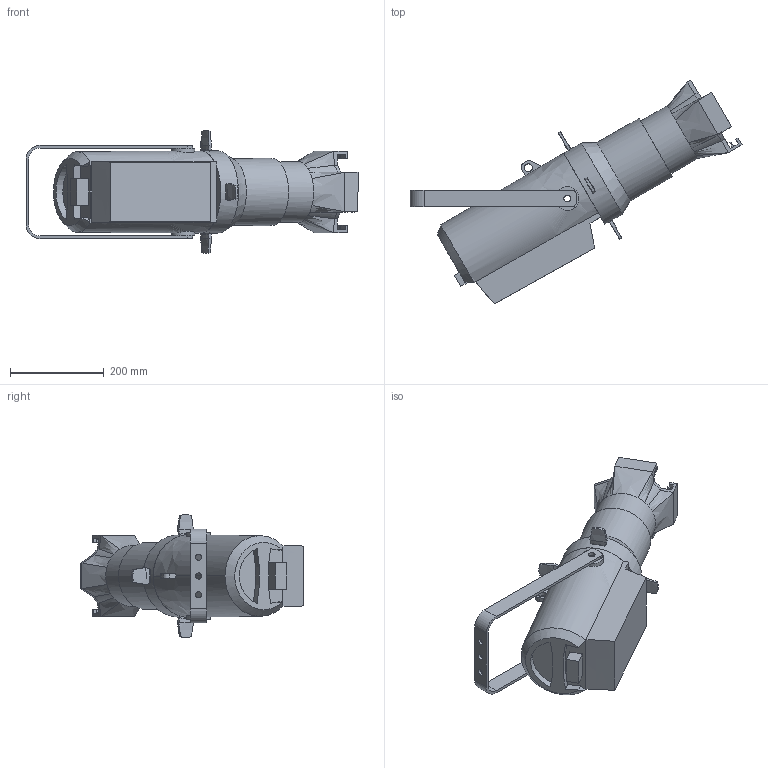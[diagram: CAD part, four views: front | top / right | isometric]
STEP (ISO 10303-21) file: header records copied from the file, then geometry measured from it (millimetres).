
FILE_DESCRIPTION(/* description */ (''),/* implementation_level */ '2;1');
FILE_NAME(/* name */ 'D:/dgooch/Documents/CADENG/PRO/Ovation E-260CW/30/3D/OVATIONE260CW_30.step',/* time_stamp */ '2020-03-09T12:12:57-04:00',/* author */ (''),/* organization */ (''),/* preprocessor_version */ 'ST-DEVELOPER v18',/* originating_system */ 'Autodesk Translation Framework v8.12.0.6',/* authorisation */ '');
FILE_SCHEMA (('AUTOMOTIVE_DESIGN { 1 0 10303 214 3 1 1 }'));
Length unit declared in the file: millimetre
Products named in the file (3): OVATIONE260CW (v4~recovered); Bracket; Main
Assembly tree (2 placements, depth 2):
  OVATIONE260CW (v4~recovered)
    Bracket
    Main
Bounding box: 707.57 x 477.02 x 262.15 mm (x, y, z)
Volume: 14324116.5 mm3; surface area: 541291.2 mm2
Topology: 2 solids, 2 shells, 202 faces, 537 edges, 353 vertices
Faces by surface type: plane 118, cylinder 32, bspline 28, cone 24
Full cylindrical faces by diameter (mm): 13 x3, 14.5 x3, 17 x1, 50 x2, 129.499 x1, 143 x1, 175 x1
Entity records: 28780 total; most frequent: CARTESIAN_POINT 23675, ORIENTED_EDGE 1090, DIRECTION 983, EDGE_CURVE 545, VERTEX_POINT 369, AXIS2_PLACEMENT_3D 351, LINE 281, VECTOR 281
